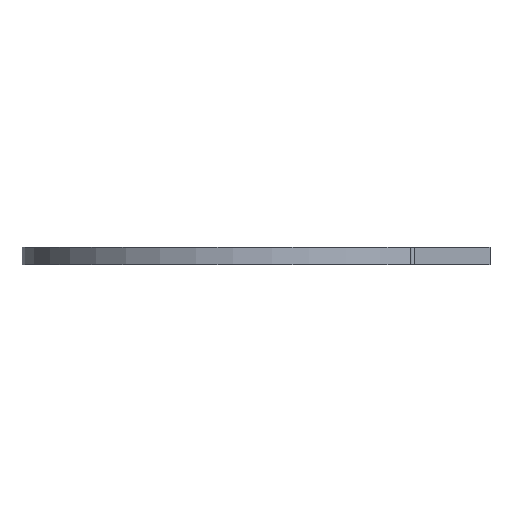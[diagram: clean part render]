
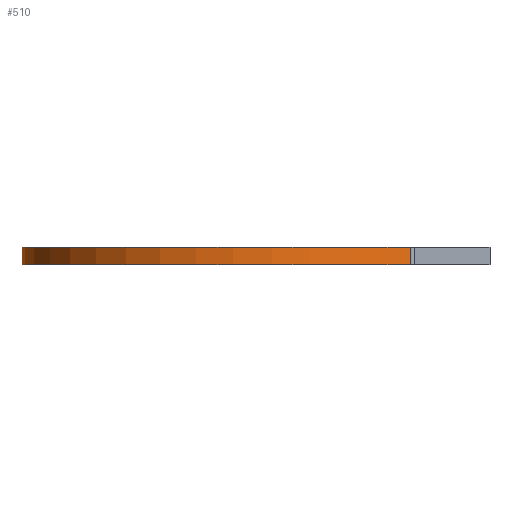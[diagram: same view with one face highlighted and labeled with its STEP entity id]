
A CAD part, front view. The second image highlights one B-rep face of the part: STEP entity #510.
In plain terms, the highlighted cylindrical face has radius 265 mm (diameter 530 mm), a partial arc.
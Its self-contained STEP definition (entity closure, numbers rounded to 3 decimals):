
#30 = DIRECTION ( 'NONE',  ( 0., 0., -1. ) ) ;
#54 = DIRECTION ( 'NONE',  ( 0., 0., -1. ) ) ;
#69 = CARTESIAN_POINT ( 'NONE',  ( 0., 0., 20. ) ) ;
#75 = AXIS2_PLACEMENT_3D ( 'NONE', #398, #332, #745 ) ;
#117 = CARTESIAN_POINT ( 'NONE',  ( -265., 0., 0. ) ) ;
#126 = CARTESIAN_POINT ( 'NONE',  ( 175., -198.997, 0. ) ) ;
#191 = EDGE_CURVE ( 'NONE', #649, #728, #905, .T. ) ;
#194 = AXIS2_PLACEMENT_3D ( 'NONE', #69, #359, #302 ) ;
#197 = ORIENTED_EDGE ( 'NONE', *, *, #377, .F. ) ;
#215 = VECTOR ( 'NONE', #529, 1000. ) ;
#253 = FACE_OUTER_BOUND ( 'NONE', #455, .T. ) ;
#276 = AXIS2_PLACEMENT_3D ( 'NONE', #456, #30, #443 ) ;
#302 = DIRECTION ( 'NONE',  ( 1., 0., 0. ) ) ;
#315 = ORIENTED_EDGE ( 'NONE', *, *, #584, .F. ) ;
#332 = DIRECTION ( 'NONE',  ( 0., 0., 1. ) ) ;
#359 = DIRECTION ( 'NONE',  ( 0., 0., 1. ) ) ;
#377 = EDGE_CURVE ( 'NONE', #586, #672, #547, .T. ) ;
#396 = LINE ( 'NONE', #669, #215 ) ;
#398 = CARTESIAN_POINT ( 'NONE',  ( 0., 0., 0. ) ) ;
#443 = DIRECTION ( 'NONE',  ( -1., 0., 0. ) ) ;
#455 = EDGE_LOOP ( 'NONE', ( #850, #197, #315, #797 ) ) ;
#456 = CARTESIAN_POINT ( 'NONE',  ( 0., 0., 20. ) ) ;
#472 = CARTESIAN_POINT ( 'NONE',  ( 175., -198.997, 20. ) ) ;
#510 = ADVANCED_FACE ( 'NONE', ( #253 ), #799, .T. ) ;
#529 = DIRECTION ( 'NONE',  ( 0., 0., 1. ) ) ;
#547 = CIRCLE ( 'NONE', #194, 265. ) ;
#584 = EDGE_CURVE ( 'NONE', #649, #586, #396, .T. ) ;
#586 = VERTEX_POINT ( 'NONE', #794 ) ;
#604 = CARTESIAN_POINT ( 'NONE',  ( 175., -198.997, 20. ) ) ;
#649 = VERTEX_POINT ( 'NONE', #117 ) ;
#652 = VECTOR ( 'NONE', #54, 1000. ) ;
#669 = CARTESIAN_POINT ( 'NONE',  ( -265., 0., 20. ) ) ;
#672 = VERTEX_POINT ( 'NONE', #604 ) ;
#728 = VERTEX_POINT ( 'NONE', #126 ) ;
#745 = DIRECTION ( 'NONE',  ( 1., 0., 0. ) ) ;
#758 = EDGE_CURVE ( 'NONE', #672, #728, #829, .T. ) ;
#794 = CARTESIAN_POINT ( 'NONE',  ( -265., 0., 20. ) ) ;
#797 = ORIENTED_EDGE ( 'NONE', *, *, #191, .T. ) ;
#799 = CYLINDRICAL_SURFACE ( 'NONE', #276, 265. ) ;
#829 = LINE ( 'NONE', #472, #652 ) ;
#850 = ORIENTED_EDGE ( 'NONE', *, *, #758, .F. ) ;
#905 = CIRCLE ( 'NONE', #75, 265. ) ;
